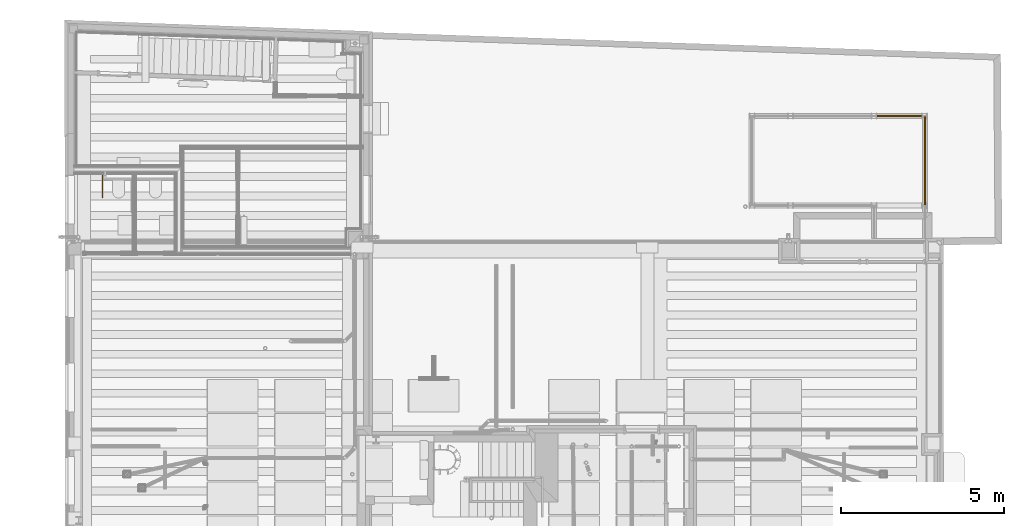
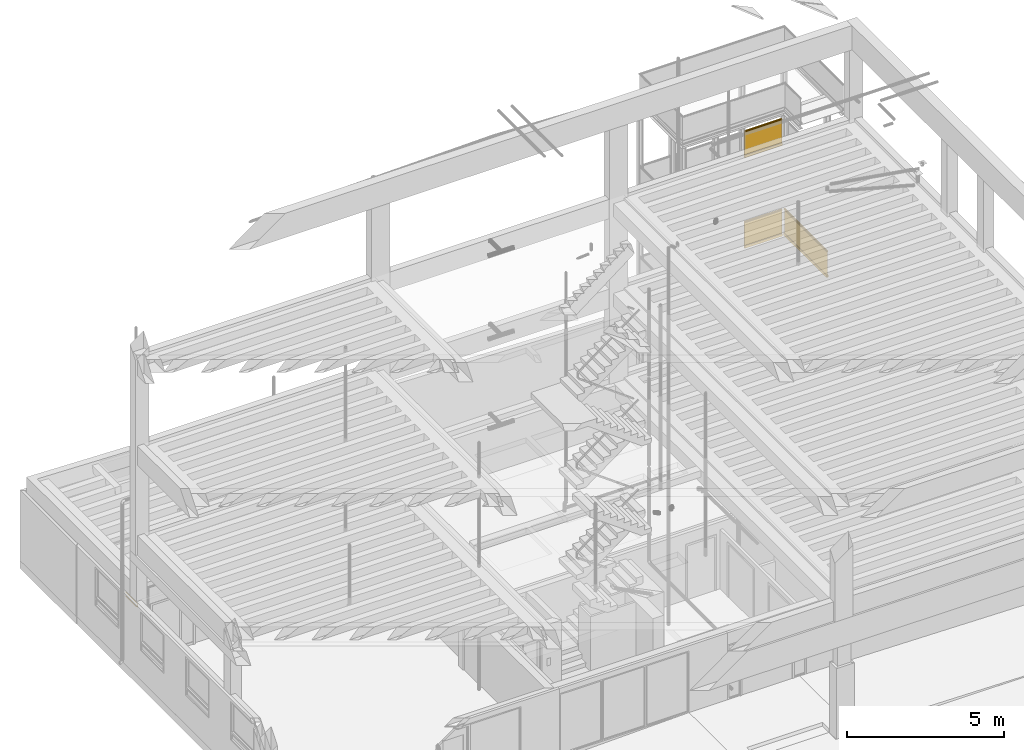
# One storey, part 35 of 108: 4 railings.
"""IFC2X3 building model written with IfcOpenShell, lengths in metres."""

from ifc_helpers import new_model, entity, si_unit, converted_unit, derived_unit, money_unit, direction, frame, origin_with_axes, place, context, subcontext, project, spatial, faceted_brep, material, type_object, element, save


model = new_model("IFC2X3")

# Units and contexts
model_context = context("Model", 3, precision=1e-05, world=origin_with_axes(), true_north=direction((0.0, 1.0)))
body_context = subcontext(model_context, "Body", "Model", "MODEL_VIEW", scale=1.0)
ifc_project = project(units=[si_unit("LENGTHUNIT", "METRE"), si_unit("AREAUNIT", "SQUARE_METRE"), si_unit("VOLUMEUNIT", "CUBIC_METRE"), si_unit("ABSORBEDDOSEUNIT", "GRAY"), si_unit("AMOUNTOFSUBSTANCEUNIT", "MOLE"), si_unit("DOSEEQUIVALENTUNIT", "SIEVERT"), si_unit("ELECTRICCAPACITANCEUNIT", "FARAD"), si_unit("ELECTRICCHARGEUNIT", "COULOMB"), si_unit("ELECTRICCONDUCTANCEUNIT", "SIEMENS"), si_unit("ELECTRICCURRENTUNIT", "AMPERE"), si_unit("ELECTRICRESISTANCEUNIT", "OHM"), si_unit("ELECTRICVOLTAGEUNIT", "VOLT"), si_unit("ENERGYUNIT", "JOULE"), si_unit("FORCEUNIT", "NEWTON"), si_unit("FREQUENCYUNIT", "HERTZ"), si_unit("ILLUMINANCEUNIT", "LUX"), si_unit("INDUCTANCEUNIT", "HENRY"), si_unit("LUMINOUSFLUXUNIT", "LUMEN"), si_unit("LUMINOUSINTENSITYUNIT", "CANDELA"), si_unit("MAGNETICFLUXDENSITYUNIT", "TESLA"), si_unit("MAGNETICFLUXUNIT", "WEBER"), si_unit("MASSUNIT", "GRAM"), converted_unit("PLANEANGLEUNIT", "degree", entity("IfcReal", 0.0174532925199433), si_unit("PLANEANGLEUNIT", "RADIAN"), dimensions=[0, 0, 0, 0, 0, 0, 0]), si_unit("POWERUNIT", "WATT"), si_unit("PRESSUREUNIT", "PASCAL"), si_unit("RADIOACTIVITYUNIT", "BECQUEREL"), si_unit("SOLIDANGLEUNIT", "STERADIAN"), si_unit("THERMODYNAMICTEMPERATUREUNIT", "KELVIN"), si_unit("TIMEUNIT", "SECOND"), derived_unit("ACCELERATIONUNIT", [(si_unit("LENGTHUNIT", "METRE"), 1), (si_unit("TIMEUNIT", "SECOND"), -2)]), derived_unit("ANGULARVELOCITYUNIT", [(converted_unit("PLANEANGLEUNIT", "degree", entity("IfcReal", 0.0174532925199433), si_unit("PLANEANGLEUNIT", "RADIAN"), dimensions=[0, 0, 0, 0, 0, 0, 0]), 1), (si_unit("TIMEUNIT", "SECOND"), -1)]), derived_unit("CURVATUREUNIT", [(converted_unit("PLANEANGLEUNIT", "degree", entity("IfcReal", 0.0174532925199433), si_unit("PLANEANGLEUNIT", "RADIAN"), dimensions=[0, 0, 0, 0, 0, 0, 0]), 1), (si_unit("LENGTHUNIT", "METRE"), -1)]), derived_unit("DYNAMICVISCOSITYUNIT", [(si_unit("PRESSUREUNIT", "PASCAL"), 1), (si_unit("TIMEUNIT", "SECOND"), 1)]), derived_unit("HEATFLUXDENSITYUNIT", [(si_unit("POWERUNIT", "WATT"), 1), (si_unit("LENGTHUNIT", "METRE"), -2)]), derived_unit("HEATINGVALUEUNIT", [(si_unit("ENERGYUNIT", "JOULE"), 1), (si_unit("MASSUNIT", "GRAM"), -1)]), derived_unit("INTEGERCOUNTRATEUNIT", [(si_unit("TIMEUNIT", "SECOND"), -1)]), derived_unit("IONCONCENTRATIONUNIT", [(si_unit("MASSUNIT", "GRAM"), 1), (si_unit("VOLUMEUNIT", "CUBIC_METRE"), -1)]), derived_unit("ISOTHERMALMOISTURECAPACITYUNIT", [(si_unit("VOLUMEUNIT", "CUBIC_METRE"), 1), (si_unit("MASSUNIT", "GRAM"), -1)]), derived_unit("KINEMATICVISCOSITYUNIT", [(si_unit("AREAUNIT", "SQUARE_METRE"), 1), (si_unit("TIMEUNIT", "SECOND"), -1)]), derived_unit("LINEARFORCEUNIT", [(si_unit("FORCEUNIT", "NEWTON"), 1), (si_unit("LENGTHUNIT", "METRE"), -1)]), derived_unit("LINEARMOMENTUNIT", [(si_unit("FORCEUNIT", "NEWTON"), 1), (si_unit("LENGTHUNIT", "METRE"), -1)]), derived_unit("LINEARSTIFFNESSUNIT", [(si_unit("FORCEUNIT", "NEWTON"), 1), (si_unit("LENGTHUNIT", "METRE"), -1)]), derived_unit("LINEARVELOCITYUNIT", [(si_unit("LENGTHUNIT", "METRE"), 1), (si_unit("TIMEUNIT", "SECOND"), -1)]), derived_unit("LUMINOUSINTENSITYDISTRIBUTIONUNIT", [(si_unit("LUMINOUSINTENSITYUNIT", "CANDELA"), 1), (si_unit("LUMINOUSFLUXUNIT", "LUMEN"), -1)]), derived_unit("MASSDENSITYUNIT", [(si_unit("MASSUNIT", "GRAM"), 1), (si_unit("VOLUMEUNIT", "CUBIC_METRE"), -1)]), derived_unit("MASSFLOWRATEUNIT", [(si_unit("MASSUNIT", "GRAM"), 1), (si_unit("TIMEUNIT", "SECOND"), -1)]), derived_unit("MASSPERLENGTHUNIT", [(si_unit("MASSUNIT", "GRAM"), 1), (si_unit("LENGTHUNIT", "METRE"), -1)]), derived_unit("MODULUSOFELASTICITYUNIT", [(si_unit("FORCEUNIT", "NEWTON"), 1), (si_unit("AREAUNIT", "SQUARE_METRE"), -1)]), derived_unit("MODULUSOFLINEARSUBGRADEREACTIONUNIT", [(si_unit("FORCEUNIT", "NEWTON"), 1), (si_unit("LENGTHUNIT", "METRE"), -2)]), derived_unit("MODULUSOFROTATIONALSUBGRADEREACTIONUNIT", [(si_unit("FORCEUNIT", "NEWTON"), 1), (si_unit("LENGTHUNIT", "METRE"), 1)]), derived_unit("MODULUSOFSUBGRADEREACTIONUNIT", [(si_unit("FORCEUNIT", "NEWTON"), 1), (si_unit("VOLUMEUNIT", "CUBIC_METRE"), -1)]), derived_unit("MOISTUREDIFFUSIVITYUNIT", [(si_unit("VOLUMEUNIT", "CUBIC_METRE"), 1), (si_unit("TIMEUNIT", "SECOND"), -1)]), derived_unit("MOLECULARWEIGHTUNIT", [(si_unit("MASSUNIT", "GRAM"), 1), (si_unit("AMOUNTOFSUBSTANCEUNIT", "MOLE"), -1)]), derived_unit("PLANARFORCEUNIT", [(si_unit("FORCEUNIT", "NEWTON"), 1), (si_unit("LENGTHUNIT", "METRE"), -2)]), derived_unit("ROTATIONALFREQUENCYUNIT", [(si_unit("TIMEUNIT", "SECOND"), -1)]), derived_unit("ROTATIONALMASSUNIT", [(si_unit("MASSUNIT", "GRAM"), 1), (si_unit("LENGTHUNIT", "METRE"), 2)]), derived_unit("ROTATIONALSTIFFNESSUNIT", [(si_unit("FORCEUNIT", "NEWTON"), 1), (si_unit("LENGTHUNIT", "METRE"), 1), (converted_unit("PLANEANGLEUNIT", "degree", entity("IfcReal", 0.0174532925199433), si_unit("PLANEANGLEUNIT", "RADIAN"), dimensions=[0, 0, 0, 0, 0, 0, 0]), -1)]), derived_unit("SECTIONAREAINTEGRALUNIT", [(si_unit("LENGTHUNIT", "METRE"), 5)]), derived_unit("SECTIONMODULUSUNIT", [(si_unit("LENGTHUNIT", "METRE"), 3)]), derived_unit("SHEARMODULUSUNIT", [(si_unit("FORCEUNIT", "NEWTON"), 1), (si_unit("AREAUNIT", "SQUARE_METRE"), -1)]), derived_unit("SOUNDPOWERUNIT", [(si_unit("ENERGYUNIT", "JOULE"), 1), (si_unit("TIMEUNIT", "SECOND"), -1)]), derived_unit("SPECIFICHEATCAPACITYUNIT", [(si_unit("FORCEUNIT", "NEWTON"), 1), (si_unit("MASSUNIT", "GRAM"), -1), (si_unit("THERMODYNAMICTEMPERATUREUNIT", "KELVIN"), -1)]), derived_unit("TEMPERATUREGRADIENTUNIT", [(si_unit("THERMODYNAMICTEMPERATUREUNIT", "KELVIN"), 1), (si_unit("LENGTHUNIT", "METRE"), -1)]), derived_unit("THERMALADMITTANCEUNIT", [(si_unit("POWERUNIT", "WATT"), 1), (si_unit("AREAUNIT", "SQUARE_METRE"), -1), (si_unit("THERMODYNAMICTEMPERATUREUNIT", "KELVIN"), -1)]), derived_unit("THERMALCONDUCTANCEUNIT", [(si_unit("POWERUNIT", "WATT"), 1), (si_unit("LENGTHUNIT", "METRE"), -1), (si_unit("THERMODYNAMICTEMPERATUREUNIT", "KELVIN"), -1)]), derived_unit("THERMALEXPANSIONCOEFFICIENTUNIT", [(si_unit("THERMODYNAMICTEMPERATUREUNIT", "KELVIN"), -1)]), derived_unit("THERMALRESISTANCEUNIT", [(si_unit("AREAUNIT", "SQUARE_METRE"), 1), (si_unit("POWERUNIT", "WATT"), -1)]), derived_unit("THERMALTRANSMITTANCEUNIT", [(si_unit("POWERUNIT", "WATT"), 1), (si_unit("AREAUNIT", "SQUARE_METRE"), -1), (si_unit("THERMODYNAMICTEMPERATUREUNIT", "KELVIN"), -1)]), derived_unit("TORQUEUNIT", [(si_unit("FORCEUNIT", "NEWTON"), 1), (si_unit("LENGTHUNIT", "METRE"), 1)]), derived_unit("VAPORPERMEABILITYUNIT", [(si_unit("MASSUNIT", "GRAM"), 1), (si_unit("TIMEUNIT", "SECOND"), -1)]), derived_unit("VOLUMETRICFLOWRATEUNIT", [(si_unit("VOLUMEUNIT", "CUBIC_METRE"), 1), (si_unit("TIMEUNIT", "SECOND"), -1)]), derived_unit("WARPINGCONSTANTUNIT", [(si_unit("LENGTHUNIT", "METRE"), 6)]), derived_unit("WARPINGMOMENTUNIT", [(si_unit("FORCEUNIT", "NEWTON"), 1), (si_unit("LENGTHUNIT", "METRE"), 2)]), money_unit("GBP")], contexts=[model_context])

# Site, building, storey
site_placement = place(None, origin_with_axes())
site = spatial("IfcSite", under=ifc_project, at=site_placement, Name="Site", CompositionType="ELEMENT")
building_placement = place(site_placement, origin_with_axes())
building = spatial("IfcBuilding", under=site, at=building_placement, Name="Building01", CompositionType="ELEMENT")
storey_placement = place(building_placement, origin_with_axes())
storey = spatial("IfcBuildingStorey", under=building, at=storey_placement, Name="GF", CompositionType="ELEMENT", Elevation=0.0)

# Railings
ifc_material = material(Name="A_BSUK_Steel_Miscellaneous")
railing_type_1 = type_object("IfcRailingType", Name="A-Handrail-900mm", PredefinedType="NOTDEFINED")
railing_1_placement = place(storey_placement, frame((1.150525, 16.893493, 0.198), z_axis=(0.0, 0.0, 1.0), x_axis=(1.0, 0.0, 0.0)))
element("IfcRailing", 1, at=railing_1_placement, inside=storey, type_object=railing_type_1, material=ifc_material, Name="A-Handrail-900mm", ObjectType="A-Handrail-900mm", PredefinedType="HANDRAIL", context=body_context, shape_type="Brep", body=[
    faceted_brep([(0.0, -0.732331, 0.88243), (0.002447, -0.733344, 0.883443), (0.002648, 0.0, 0.882957), (0.004893, -0.734357, 0.884457), (0.004893, 0.0, 0.884457), (0.005907, -0.736804, 0.886903), (0.006393, 0.0, 0.886702), (0.00692, -0.739251, 0.88935), (0.00692, 0.0, 0.88935), (0.005907, -0.741697, 0.891797), (0.006393, 0.0, 0.891998), (0.004893, -0.744144, 0.894243), (0.004893, 0.0, 0.894243), (0.002447, -0.745157, 0.895257), (0.002648, 0.0, 0.895743), (0.0, -0.746171, 0.89627), (0.0, 0.0, 0.89627), (-0.002447, -0.745157, 0.895257), (-0.002648, 0.0, 0.895743), (-0.004893, -0.744144, 0.894243), (-0.004893, 0.0, 0.894243), (-0.005907, -0.741697, 0.891797), (-0.006393, 0.0, 0.891998), (-0.00692, -0.739251, 0.88935), (-0.00692, 0.0, 0.88935), (-0.005907, -0.736804, 0.886903), (-0.006393, 0.0, 0.886702), (-0.004893, -0.734357, 0.884457), (-0.004893, 0.0, 0.884457), (-0.002447, -0.733344, 0.883443), (-0.002648, 0.0, 0.882957), (0.0, 0.0, 0.88243), (0.009839, 0.0, 0.885274), (0.007531, 0.0, 0.881819), (0.004076, 0.0, 0.879511), (0.0, 0.0, 0.8787), (-0.004076, 0.0, 0.879511), (-0.007531, 0.0, 0.881819), (-0.009839, 0.0, 0.885274), (-0.01065, 0.0, 0.88935), (-0.009839, 0.0, 0.893426), (-0.007531, 0.0, 0.896881), (-0.004076, 0.0, 0.899189), (0.0, 0.0, 0.9), (0.004076, 0.0, 0.899189), (0.007531, 0.0, 0.896881), (0.009839, 0.0, 0.893426), (0.01065, 0.0, 0.88935), (-0.007531, -0.746781, 0.896881), (-0.009839, -0.743326, 0.893426), (-0.01065, -0.739251, 0.88935), (-0.009839, -0.735175, 0.885274), (-0.007531, -0.73172, 0.881819), (-0.004076, -0.729411, 0.879511), (0.0, -0.728601, 0.8787), (0.004076, -0.729411, 0.879511), (0.007531, -0.73172, 0.881819), (0.009839, -0.735175, 0.885274), (0.01065, -0.739251, 0.88935), (0.009839, -0.743326, 0.893426), (0.007531, -0.746781, 0.896881), (0.003818, -0.748544, 0.898644), (0.001077, -0.749846, 0.899945), (-0.001077, -0.749846, 0.899945), (-0.003818, -0.748544, 0.898644), (0.0, -0.749846, 0.9)], [[[0, 1, 2]], [[1, 3, 4]], [[3, 5, 6]], [[5, 7, 8]], [[7, 9, 10]], [[9, 11, 12]], [[11, 13, 14]], [[13, 15, 16]], [[17, 18, 16]], [[19, 20, 18]], [[21, 22, 20]], [[23, 24, 22]], [[25, 26, 24]], [[27, 28, 26]], [[29, 30, 28]], [[0, 31, 30]], [[30, 29, 0]], [[28, 27, 29]], [[26, 25, 27]], [[24, 23, 25]], [[22, 21, 23]], [[20, 19, 21]], [[18, 17, 19]], [[16, 15, 17]], [[16, 14, 13]], [[14, 12, 11]], [[12, 10, 9]], [[10, 8, 7]], [[8, 6, 5]], [[6, 4, 3]], [[4, 2, 1]], [[2, 31, 0]], [[32, 33, 34, 35, 36, 37, 38, 39, 40, 41, 42, 43, 44, 45, 46, 47], [10, 12, 14, 16, 18, 20, 22, 24, 26, 28, 30, 31, 2, 4, 6, 8]], [[48, 49, 50, 51, 52, 53, 54, 55, 56, 57, 58, 59, 60, 61, 62, 63, 64], [27, 25, 23, 21, 19, 17, 15, 13, 11, 9, 7, 5, 3, 1, 0, 29]], [[61, 44, 43]], [[60, 45, 44]], [[59, 46, 45, 60]], [[58, 47, 46, 59]], [[57, 32, 47, 58]], [[56, 33, 32, 57]], [[55, 34, 33, 56]], [[54, 35, 34, 55]], [[53, 36, 35, 54]], [[52, 37, 36, 53]], [[51, 38, 37, 52]], [[50, 39, 38, 51]], [[49, 40, 39, 50]], [[48, 41, 40, 49]], [[48, 64, 42]], [[63, 65, 43]], [[64, 63, 43]], [[43, 42, 64]], [[42, 41, 48]], [[44, 61, 60]], [[43, 65, 62]], [[43, 62, 61]], [[62, 65, 63]]]),
    faceted_brep([(0.004076, -0.74909, 0.899189), (0.007531, -0.746781, 0.896881), (0.009839, -0.743326, 0.893426), (0.01065, -0.739251, 0.88935), (0.009839, -0.735175, 0.885274), (0.007531, -0.73172, 0.881819), (0.004076, -0.729411, 0.879511), (0.0, -0.728601, 0.8787), (-0.004076, -0.729411, 0.879511), (-0.007531, -0.73172, 0.881819), (-0.009839, -0.735175, 0.885274), (-0.01065, -0.739251, 0.88935), (-0.009839, -0.743326, 0.893426), (-0.007531, -0.746781, 0.896881), (-0.004076, -0.74909, 0.899189), (0.0, -0.749901, 0.9), (-0.004893, -0.744144, 0.894243), (-0.005907, -0.741697, 0.891797), (-0.00692, -0.739251, 0.88935), (-0.005907, -0.736804, 0.886903), (-0.004893, -0.734357, 0.884457), (-0.002447, -0.733344, 0.883443), (0.0, -0.732331, 0.88243), (0.002447, -0.733344, 0.883443), (0.004893, -0.734357, 0.884457), (0.005907, -0.736804, 0.886903), (0.00692, -0.739251, 0.88935), (0.005907, -0.741697, 0.891797), (0.004893, -0.744144, 0.894243), (0.002447, -0.745157, 0.895257), (0.0, -0.746171, 0.89627), (-0.002447, -0.745157, 0.895257), (0.002447, -0.745157, 0.733443), (0.0, -0.746171, 0.73243), (0.004893, -0.744144, 0.734457), (0.005907, -0.741697, 0.736903), (0.00692, -0.739251, 0.73935), (0.005907, -0.736804, 0.741797), (0.004893, -0.734357, 0.744243), (0.002447, -0.733344, 0.745257), (0.0, -0.732331, 0.74627), (-0.002447, -0.733344, 0.745257), (-0.004893, -0.734357, 0.744243), (-0.005907, -0.736804, 0.741797), (-0.00692, -0.739251, 0.73935), (-0.005907, -0.741697, 0.736903), (-0.004893, -0.744144, 0.734457), (-0.002447, -0.745157, 0.733443), (-0.007531, -0.746781, 0.731819), (-0.009839, -0.743326, 0.735274), (-0.01065, -0.739251, 0.73935), (-0.009839, -0.735175, 0.743426), (-0.007531, -0.73172, 0.746881), (-0.004076, -0.729411, 0.749189), (0.0, -0.728601, 0.75), (0.004076, -0.729411, 0.749189), (0.007531, -0.73172, 0.746881), (0.009839, -0.735175, 0.743426), (0.01065, -0.739251, 0.73935), (0.009839, -0.743326, 0.735274), (0.007531, -0.746781, 0.731819), (0.003818, -0.748544, 0.730056), (0.001077, -0.749846, 0.728755), (-0.001077, -0.749846, 0.728755), (-0.003818, -0.748544, 0.730056), (0.0, -0.749901, 0.728755)], [[[0, 1, 2, 3, 4, 5, 6, 7, 8, 9, 10, 11, 12, 13, 14, 15], [16, 17, 18, 19, 20, 21, 22, 23, 24, 25, 26, 27, 28, 29, 30, 31]], [[29, 32, 33, 30]], [[28, 34, 32, 29]], [[27, 35, 34, 28]], [[26, 36, 35, 27]], [[25, 37, 36, 26]], [[24, 38, 37, 25]], [[23, 39, 38, 24]], [[22, 40, 39, 23]], [[21, 41, 40, 22]], [[20, 42, 41, 21]], [[19, 43, 42, 20]], [[18, 44, 43, 19]], [[17, 45, 44, 18]], [[16, 46, 45, 17]], [[31, 47, 46, 16]], [[30, 33, 47, 31]], [[48, 49, 50, 51, 52, 53, 54, 55, 56, 57, 58, 59, 60, 61, 62, 63, 64], [42, 43, 44, 45, 46, 47, 33, 32, 34, 35, 36, 37, 38, 39, 40, 41]], [[61, 0, 15]], [[1, 0, 61]], [[59, 2, 1, 60]], [[58, 3, 2, 59]], [[57, 4, 3, 58]], [[56, 5, 4, 57]], [[55, 6, 5, 56]], [[54, 7, 6, 55]], [[53, 8, 7, 54]], [[52, 9, 8, 53]], [[51, 10, 9, 52]], [[50, 11, 10, 51]], [[49, 12, 11, 50]], [[48, 13, 12, 49]], [[13, 48, 64]], [[63, 65, 15]], [[64, 63, 15]], [[15, 14, 64]], [[64, 14, 13]], [[61, 60, 1]], [[15, 65, 62]], [[15, 62, 61]], [[62, 65, 63]]]),
    faceted_brep([(0.004076, -0.74909, 0.729511), (0.007531, -0.746781, 0.731819), (0.009839, -0.743326, 0.735274), (0.01065, -0.739251, 0.73935), (0.009839, -0.735175, 0.743426), (0.007531, -0.73172, 0.746881), (0.004076, -0.729411, 0.749189), (0.0, -0.728601, 0.75), (-0.004076, -0.729411, 0.749189), (-0.007531, -0.73172, 0.746881), (-0.009839, -0.735175, 0.743426), (-0.01065, -0.739251, 0.73935), (-0.009839, -0.743326, 0.735274), (-0.007531, -0.746781, 0.731819), (-0.004076, -0.74909, 0.729511), (0.0, -0.749901, 0.7287), (-0.004893, -0.744144, 0.734457), (-0.005907, -0.741697, 0.736903), (-0.00692, -0.739251, 0.73935), (-0.005907, -0.736804, 0.741797), (-0.004893, -0.734357, 0.744243), (-0.002447, -0.733344, 0.745257), (0.0, -0.732331, 0.74627), (0.002447, -0.733344, 0.745257), (0.004893, -0.734357, 0.744243), (0.005907, -0.736804, 0.741797), (0.00692, -0.739251, 0.73935), (0.005907, -0.741697, 0.736903), (0.004893, -0.744144, 0.734457), (0.002447, -0.745157, 0.733443), (0.0, -0.746171, 0.73243), (-0.002447, -0.745157, 0.733443), (0.002648, 0.0, 0.732957), (0.0, 0.0, 0.73243), (0.004893, 0.0, 0.734457), (0.006393, 0.0, 0.736702), (0.00692, 0.0, 0.73935), (0.006393, 0.0, 0.741998), (0.004893, 0.0, 0.744243), (0.002648, 0.0, 0.745743), (0.0, 0.0, 0.74627), (-0.002648, 0.0, 0.745743), (-0.004893, 0.0, 0.744243), (-0.006393, 0.0, 0.741998), (-0.00692, 0.0, 0.73935), (-0.006393, 0.0, 0.736702), (-0.004893, 0.0, 0.734457), (-0.002648, 0.0, 0.732957), (-0.009839, 0.0, 0.743426), (-0.007531, 0.0, 0.746881), (-0.004076, 0.0, 0.749189), (0.0, 0.0, 0.75), (0.004076, 0.0, 0.749189), (0.007531, 0.0, 0.746881), (0.009839, 0.0, 0.743426), (0.01065, 0.0, 0.73935), (0.009839, 0.0, 0.735274), (0.007531, 0.0, 0.731819), (0.004076, 0.0, 0.729511), (0.0, 0.0, 0.7287), (-0.004076, 0.0, 0.729511), (-0.007531, 0.0, 0.731819), (-0.009839, 0.0, 0.735274), (-0.01065, 0.0, 0.73935)], [[[0, 1, 2, 3, 4, 5, 6, 7, 8, 9, 10, 11, 12, 13, 14, 15], [16, 17, 18, 19, 20, 21, 22, 23, 24, 25, 26, 27, 28, 29, 30, 31]], [[29, 32, 33]], [[28, 34, 32]], [[27, 35, 34]], [[26, 36, 35]], [[25, 37, 36]], [[24, 38, 37]], [[23, 39, 38]], [[22, 40, 39]], [[22, 21, 41]], [[21, 20, 42]], [[20, 19, 43]], [[19, 18, 44]], [[18, 17, 45]], [[17, 16, 46]], [[16, 31, 47]], [[31, 30, 33]], [[33, 47, 31]], [[47, 46, 16]], [[46, 45, 17]], [[45, 44, 18]], [[44, 43, 19]], [[43, 42, 20]], [[42, 41, 21]], [[41, 40, 22]], [[39, 23, 22]], [[38, 24, 23]], [[37, 25, 24]], [[36, 26, 25]], [[35, 27, 26]], [[34, 28, 27]], [[32, 29, 28]], [[33, 30, 29]], [[48, 49, 50, 51, 52, 53, 54, 55, 56, 57, 58, 59, 60, 61, 62, 63], [45, 46, 47, 33, 32, 34, 35, 36, 37, 38, 39, 40, 41, 42, 43, 44]], [[14, 60, 59, 15]], [[13, 61, 60, 14]], [[12, 62, 61, 13]], [[11, 63, 62, 12]], [[10, 48, 63, 11]], [[9, 49, 48, 10]], [[8, 50, 49, 9]], [[7, 51, 50, 8]], [[6, 52, 51, 7]], [[5, 53, 52, 6]], [[4, 54, 53, 5]], [[3, 55, 54, 4]], [[2, 56, 55, 3]], [[1, 57, 56, 2]], [[0, 58, 57, 1]], [[15, 59, 58, 0]]]),
])
railing_type_2 = type_object("IfcRailingType", Name="A-RailingGlassPanel-1050mm", PredefinedType="NOTDEFINED")
railing_2_placement = place(storey_placement, frame((26.319835, 18.663481, 8.587442), z_axis=(0.0, 0.0, 1.0), x_axis=(1.0, 0.0, 0.0)))
element("IfcRailing", 2, at=railing_2_placement, inside=storey, type_object=railing_type_2, material=ifc_material, Name="A-RailingGlassPanel-1050mm", ObjectType="A-RailingGlassPanel-1050mm", PredefinedType="HANDRAIL", context=body_context, shape_type="Brep", body=[
    faceted_brep([(-1.3798, -0.0125, 0.9875), (0.0, -0.0125, 0.9875), (0.0, -0.023022, 0.99456), (-1.3798, -0.023022, 0.99456), (0.0, -0.030045, 1.005108), (-1.3798, -0.030045, 1.005108), (0.0, -0.0325, 1.017539), (-1.3798, -0.0325, 1.017539), (0.0, -0.030015, 1.029964), (-1.3798, -0.030015, 1.029964), (0.0, -0.022967, 1.040495), (-1.3798, -0.022967, 1.040495), (0.0, -0.012428, 1.04753), (-1.3798, -0.012428, 1.04753), (0.0, 0.0, 1.05), (-1.3798, 0.0, 1.05), (0.0, 0.012428, 1.04753), (-1.3798, 0.012428, 1.04753), (0.0, 0.022967, 1.040495), (-1.3798, 0.022967, 1.040495), (0.0, 0.030015, 1.029964), (-1.3798, 0.030015, 1.029964), (0.0, 0.0325, 1.017539), (-1.3798, 0.0325, 1.017539), (0.0, 0.030045, 1.005108), (-1.3798, 0.030045, 1.005108), (0.0, 0.023022, 0.99456), (-1.3798, 0.023022, 0.99456), (0.0, 0.0125, 0.9875), (-1.3798, 0.0125, 0.9875), (-1.3798, -0.0125, 1.0125), (0.0, -0.0125, 1.0125), (-1.3798, 0.0125, 1.0125), (0.0, 0.0125, 1.0125)], [[[0, 1, 2, 3]], [[3, 2, 4, 5]], [[5, 4, 6, 7]], [[7, 6, 8, 9]], [[9, 8, 10, 11]], [[11, 10, 12, 13]], [[13, 12, 14, 15]], [[15, 14, 16, 17]], [[17, 16, 18, 19]], [[19, 18, 20, 21]], [[21, 20, 22, 23]], [[23, 22, 24, 25]], [[25, 24, 26, 27]], [[27, 26, 28, 29]], [[0, 30, 31, 1]], [[30, 32, 33, 31]], [[32, 30, 0, 3, 5, 7, 9, 11, 13, 15, 17, 19, 21, 23, 25, 27, 29]], [[32, 29, 28, 33]], [[28, 26, 24, 22, 20, 18, 16, 14, 12, 10, 8, 6, 4, 2, 1, 31, 33]]]),
    faceted_brep([(-1.3798, -0.0295, 0.099925), (0.0, -0.0295, 0.099925), (0.0, -0.0125, 0.099925), (-1.3798, -0.0125, 0.099925), (-1.3798, -0.0325, 0.096925), (0.0, -0.0325, 0.096925), (0.0, -0.032272, 0.098073), (-1.3798, -0.032272, 0.098073), (0.0, -0.031621, 0.099046), (-1.3798, -0.031621, 0.099046), (0.0, -0.030648, 0.099697), (-1.3798, -0.030648, 0.099697), (-1.3798, -0.0325, 0.003), (0.0, -0.0325, 0.003), (-1.3798, -0.0295, 0.0), (-1.3798, -0.030648, 0.000228), (-1.3798, -0.031621, 0.000879), (-1.3798, -0.032272, 0.001852), (-1.3798, -0.0125, 0.01), (-1.3798, 0.0125, 0.01), (-1.3798, 0.0125, 0.099925), (-1.3798, 0.0295, 0.099925), (-1.3798, 0.030648, 0.099697), (-1.3798, 0.031621, 0.099046), (-1.3798, 0.032272, 0.098073), (-1.3798, 0.0325, 0.096925), (-1.3798, 0.0325, 0.003), (-1.3798, 0.032272, 0.001852), (-1.3798, 0.031621, 0.000879), (-1.3798, 0.030648, 0.000228), (-1.3798, 0.0295, 0.0), (0.0, 0.0295, 0.0), (0.0, 0.030648, 0.000228), (0.0, 0.031621, 0.000879), (0.0, 0.032272, 0.001852), (0.0, 0.0325, 0.003), (0.0, 0.0325, 0.096925), (0.0, 0.032272, 0.098073), (0.0, 0.031621, 0.099046), (0.0, 0.030648, 0.099697), (0.0, 0.0295, 0.099925), (0.0, 0.0125, 0.099925), (0.0, 0.0125, 0.01), (0.0, -0.0125, 0.01), (0.0, -0.032272, 0.001852), (0.0, -0.031621, 0.000879), (0.0, -0.030648, 0.000228), (0.0, -0.0295, 0.0)], [[[0, 1, 2, 3]], [[4, 5, 6, 7]], [[7, 6, 8, 9]], [[9, 8, 10, 11]], [[11, 10, 1, 0]], [[4, 12, 13, 5]], [[14, 15, 16, 17, 12, 4, 7, 9, 11, 0, 3, 18, 19, 20, 21, 22, 23, 24, 25, 26, 27, 28, 29, 30]], [[31, 32, 33, 34, 35, 36, 37, 38, 39, 40, 41, 42, 43, 2, 1, 10, 8, 6, 5, 13, 44, 45, 46, 47]], [[14, 47, 46, 15]], [[15, 46, 45, 16]], [[16, 45, 44, 17]], [[17, 44, 13, 12]], [[14, 30, 31, 47]], [[26, 35, 34, 27]], [[27, 34, 33, 28]], [[28, 33, 32, 29]], [[29, 32, 31, 30]], [[26, 25, 36, 35]], [[21, 40, 39, 22]], [[22, 39, 38, 23]], [[23, 38, 37, 24]], [[24, 37, 36, 25]], [[21, 20, 41, 40]], [[20, 19, 42, 41]], [[19, 18, 43, 42]], [[18, 3, 2, 43]]]),
    faceted_brep([(0.0, 0.0, 0.05), (0.0, 0.0, 1.025), (-1.3798, 0.0, 1.025), (-1.3798, 0.0, 0.05), (-1.3798, 0.01, 0.05), (-1.3798, 0.01, 1.025), (0.0, 0.01, 1.025), (0.0, 0.01, 0.05)], [[[0, 1, 2, 3]], [[4, 5, 6, 7]], [[0, 7, 6, 1]], [[1, 6, 5, 2]], [[2, 5, 4, 3]], [[3, 4, 7, 0]]]),
])
railing_3_placement = place(storey_placement, frame((26.319835, 18.663481, 5.064467), z_axis=(0.0, 0.0, 1.0), x_axis=(1.0, 0.0, 0.0)))
element("IfcRailing", 3, at=railing_3_placement, inside=storey, type_object=railing_type_2, material=ifc_material, Name="A-RailingGlassPanel-1050mm", ObjectType="A-RailingGlassPanel-1050mm", PredefinedType="HANDRAIL", context=body_context, shape_type="Brep", body=[
    faceted_brep([(-1.3798, -0.0125, 0.9875), (0.0, -0.0125, 0.9875), (0.0, -0.023022, 0.99456), (-1.3798, -0.023022, 0.99456), (0.0, -0.030045, 1.005108), (-1.3798, -0.030045, 1.005108), (0.0, -0.0325, 1.017539), (-1.3798, -0.0325, 1.017539), (0.0, -0.030015, 1.029964), (-1.3798, -0.030015, 1.029964), (0.0, -0.022967, 1.040495), (-1.3798, -0.022967, 1.040495), (0.0, -0.012428, 1.04753), (-1.3798, -0.012428, 1.04753), (0.0, 0.0, 1.05), (-1.3798, 0.0, 1.05), (0.0, 0.012428, 1.04753), (-1.3798, 0.012428, 1.04753), (0.0, 0.022967, 1.040495), (-1.3798, 0.022967, 1.040495), (0.0, 0.030015, 1.029964), (-1.3798, 0.030015, 1.029964), (0.0, 0.0325, 1.017539), (-1.3798, 0.0325, 1.017539), (0.0, 0.030045, 1.005108), (-1.3798, 0.030045, 1.005108), (0.0, 0.023022, 0.99456), (-1.3798, 0.023022, 0.99456), (0.0, 0.0125, 0.9875), (-1.3798, 0.0125, 0.9875), (-1.3798, -0.0125, 1.0125), (0.0, -0.0125, 1.0125), (-1.3798, 0.0125, 1.0125), (0.0, 0.0125, 1.0125)], [[[0, 1, 2, 3]], [[3, 2, 4, 5]], [[5, 4, 6, 7]], [[7, 6, 8, 9]], [[9, 8, 10, 11]], [[11, 10, 12, 13]], [[13, 12, 14, 15]], [[15, 14, 16, 17]], [[17, 16, 18, 19]], [[19, 18, 20, 21]], [[21, 20, 22, 23]], [[23, 22, 24, 25]], [[25, 24, 26, 27]], [[27, 26, 28, 29]], [[0, 30, 31, 1]], [[30, 32, 33, 31]], [[32, 30, 0, 3, 5, 7, 9, 11, 13, 15, 17, 19, 21, 23, 25, 27, 29]], [[32, 29, 28, 33]], [[28, 26, 24, 22, 20, 18, 16, 14, 12, 10, 8, 6, 4, 2, 1, 31, 33]]]),
    faceted_brep([(-1.3798, -0.0295, 0.099925), (0.0, -0.0295, 0.099925), (0.0, -0.0125, 0.099925), (-1.3798, -0.0125, 0.099925), (-1.3798, -0.0325, 0.096925), (0.0, -0.0325, 0.096925), (0.0, -0.032272, 0.098073), (-1.3798, -0.032272, 0.098073), (0.0, -0.031621, 0.099046), (-1.3798, -0.031621, 0.099046), (0.0, -0.030648, 0.099697), (-1.3798, -0.030648, 0.099697), (-1.3798, -0.0325, 0.003), (0.0, -0.0325, 0.003), (-1.3798, -0.0295, 0.0), (-1.3798, -0.030648, 0.000228), (-1.3798, -0.031621, 0.000879), (-1.3798, -0.032272, 0.001852), (-1.3798, -0.0125, 0.01), (-1.3798, 0.0125, 0.01), (-1.3798, 0.0125, 0.099925), (-1.3798, 0.0295, 0.099925), (-1.3798, 0.030648, 0.099697), (-1.3798, 0.031621, 0.099046), (-1.3798, 0.032272, 0.098073), (-1.3798, 0.0325, 0.096925), (-1.3798, 0.0325, 0.003), (-1.3798, 0.032272, 0.001852), (-1.3798, 0.031621, 0.000879), (-1.3798, 0.030648, 0.000228), (-1.3798, 0.0295, 0.0), (0.0, 0.0295, 0.0), (0.0, 0.030648, 0.000228), (0.0, 0.031621, 0.000879), (0.0, 0.032272, 0.001852), (0.0, 0.0325, 0.003), (0.0, 0.0325, 0.096925), (0.0, 0.032272, 0.098073), (0.0, 0.031621, 0.099046), (0.0, 0.030648, 0.099697), (0.0, 0.0295, 0.099925), (0.0, 0.0125, 0.099925), (0.0, 0.0125, 0.01), (0.0, -0.0125, 0.01), (0.0, -0.032272, 0.001852), (0.0, -0.031621, 0.000879), (0.0, -0.030648, 0.000228), (0.0, -0.0295, 0.0)], [[[0, 1, 2, 3]], [[4, 5, 6, 7]], [[7, 6, 8, 9]], [[9, 8, 10, 11]], [[11, 10, 1, 0]], [[4, 12, 13, 5]], [[14, 15, 16, 17, 12, 4, 7, 9, 11, 0, 3, 18, 19, 20, 21, 22, 23, 24, 25, 26, 27, 28, 29, 30]], [[31, 32, 33, 34, 35, 36, 37, 38, 39, 40, 41, 42, 43, 2, 1, 10, 8, 6, 5, 13, 44, 45, 46, 47]], [[14, 47, 46, 15]], [[15, 46, 45, 16]], [[16, 45, 44, 17]], [[17, 44, 13, 12]], [[14, 30, 31, 47]], [[26, 35, 34, 27]], [[27, 34, 33, 28]], [[28, 33, 32, 29]], [[29, 32, 31, 30]], [[26, 25, 36, 35]], [[21, 40, 39, 22]], [[22, 39, 38, 23]], [[23, 38, 37, 24]], [[24, 37, 36, 25]], [[21, 20, 41, 40]], [[20, 19, 42, 41]], [[19, 18, 43, 42]], [[18, 3, 2, 43]]]),
    faceted_brep([(0.0, 0.0, 0.05), (0.0, 0.0, 1.025), (-1.3798, 0.0, 1.025), (-1.3798, 0.0, 0.05), (-1.3798, 0.01, 0.05), (-1.3798, 0.01, 1.025), (0.0, 0.01, 1.025), (0.0, 0.01, 0.05)], [[[0, 1, 2, 3]], [[4, 5, 6, 7]], [[0, 7, 6, 1]], [[1, 6, 5, 2]], [[2, 5, 4, 3]], [[3, 4, 7, 0]]]),
])
railing_4_placement = place(storey_placement, frame((26.411335, 15.921381, 5.064467), z_axis=(0.0, 0.0, 1.0), x_axis=(1.0, 0.0, 0.0)))
element("IfcRailing", 4, at=railing_4_placement, inside=storey, type_object=railing_type_2, material=ifc_material, Name="A-RailingGlassPanel-1050mm", ObjectType="A-RailingGlassPanel-1050mm", PredefinedType="HANDRAIL", context=body_context, shape_type="Brep", body=[
    faceted_brep([(-0.0125, 2.7366, 0.9875), (-0.0125, 0.0, 0.9875), (-0.023022, 0.0, 0.99456), (-0.023022, 2.7366, 0.99456), (-0.030045, 0.0, 1.005108), (-0.030045, 2.7366, 1.005108), (-0.0325, 0.0, 1.017539), (-0.0325, 2.7366, 1.017539), (-0.030015, 0.0, 1.029964), (-0.030015, 2.7366, 1.029964), (-0.022967, 0.0, 1.040495), (-0.022967, 2.7366, 1.040495), (-0.012428, 0.0, 1.04753), (-0.012428, 2.7366, 1.04753), (0.0, 0.0, 1.05), (0.0, 2.7366, 1.05), (0.012428, 0.0, 1.04753), (0.012428, 2.7366, 1.04753), (0.022967, 0.0, 1.040495), (0.022967, 2.7366, 1.040495), (0.030015, 0.0, 1.029964), (0.030015, 2.7366, 1.029964), (0.0325, 0.0, 1.017539), (0.0325, 2.7366, 1.017539), (0.030045, 0.0, 1.005108), (0.030045, 2.7366, 1.005108), (0.023022, 0.0, 0.99456), (0.023022, 2.7366, 0.99456), (0.0125, 0.0, 0.9875), (0.0125, 2.7366, 0.9875), (-0.0125, 2.7366, 1.0125), (-0.0125, 0.0, 1.0125), (0.0125, 2.7366, 1.0125), (0.0125, 0.0, 1.0125)], [[[0, 1, 2, 3]], [[3, 2, 4, 5]], [[5, 4, 6, 7]], [[7, 6, 8, 9]], [[9, 8, 10, 11]], [[11, 10, 12, 13]], [[13, 12, 14, 15]], [[15, 14, 16, 17]], [[17, 16, 18, 19]], [[19, 18, 20, 21]], [[21, 20, 22, 23]], [[23, 22, 24, 25]], [[25, 24, 26, 27]], [[27, 26, 28, 29]], [[0, 30, 31, 1]], [[30, 32, 33, 31]], [[32, 30, 0, 3, 5, 7, 9, 11, 13, 15, 17, 19, 21, 23, 25, 27, 29]], [[32, 29, 28, 33]], [[28, 26, 24, 22, 20, 18, 16, 14, 12, 10, 8, 6, 4, 2, 1, 31, 33]]]),
    faceted_brep([(-0.0295, 2.7366, 0.099925), (-0.0295, 0.0, 0.099925), (-0.0125, 0.0, 0.099925), (-0.0125, 2.7366, 0.099925), (-0.0325, 2.7366, 0.096925), (-0.0325, 0.0, 0.096925), (-0.032272, 0.0, 0.098073), (-0.032272, 2.7366, 0.098073), (-0.031621, 0.0, 0.099046), (-0.031621, 2.7366, 0.099046), (-0.030648, 0.0, 0.099697), (-0.030648, 2.7366, 0.099697), (-0.0325, 2.7366, 0.003), (-0.0325, 0.0, 0.003), (-0.0295, 2.7366, 0.0), (-0.030648, 2.7366, 0.000228), (-0.031621, 2.7366, 0.000879), (-0.032272, 2.7366, 0.001852), (-0.0125, 2.7366, 0.01), (0.0125, 2.7366, 0.01), (0.0125, 2.7366, 0.099925), (0.0295, 2.7366, 0.099925), (0.030648, 2.7366, 0.099697), (0.031621, 2.7366, 0.099046), (0.032272, 2.7366, 0.098073), (0.0325, 2.7366, 0.096925), (0.0325, 2.7366, 0.003), (0.032272, 2.7366, 0.001852), (0.031621, 2.7366, 0.000879), (0.030648, 2.7366, 0.000228), (0.0295, 2.7366, 0.0), (0.0295, 0.0, 0.0), (0.030648, 0.0, 0.000228), (0.031621, 0.0, 0.000879), (0.032272, 0.0, 0.001852), (0.0325, 0.0, 0.003), (0.0325, 0.0, 0.096925), (0.032272, 0.0, 0.098073), (0.031621, 0.0, 0.099046), (0.030648, 0.0, 0.099697), (0.0295, 0.0, 0.099925), (0.0125, 0.0, 0.099925), (0.0125, 0.0, 0.01), (-0.0125, 0.0, 0.01), (-0.032272, 0.0, 0.001852), (-0.031621, 0.0, 0.000879), (-0.030648, 0.0, 0.000228), (-0.0295, 0.0, 0.0)], [[[0, 1, 2, 3]], [[4, 5, 6, 7]], [[7, 6, 8, 9]], [[9, 8, 10, 11]], [[11, 10, 1, 0]], [[4, 12, 13, 5]], [[14, 15, 16, 17, 12, 4, 7, 9, 11, 0, 3, 18, 19, 20, 21, 22, 23, 24, 25, 26, 27, 28, 29, 30]], [[31, 32, 33, 34, 35, 36, 37, 38, 39, 40, 41, 42, 43, 2, 1, 10, 8, 6, 5, 13, 44, 45, 46, 47]], [[14, 47, 46, 15]], [[15, 46, 45, 16]], [[16, 45, 44, 17]], [[17, 44, 13, 12]], [[14, 30, 31, 47]], [[26, 35, 34, 27]], [[27, 34, 33, 28]], [[28, 33, 32, 29]], [[29, 32, 31, 30]], [[26, 25, 36, 35]], [[21, 40, 39, 22]], [[22, 39, 38, 23]], [[23, 38, 37, 24]], [[24, 37, 36, 25]], [[21, 20, 41, 40]], [[20, 19, 42, 41]], [[19, 18, 43, 42]], [[18, 3, 2, 43]]]),
    faceted_brep([(0.0, 0.0, 0.05), (0.0, 0.0, 1.025), (0.0, 2.7366, 1.025), (0.0, 2.7366, 0.05), (0.01, 2.7366, 0.05), (0.01, 2.7366, 1.025), (0.01, 0.0, 1.025), (0.01, 0.0, 0.05)], [[[0, 1, 2, 3]], [[4, 5, 6, 7]], [[0, 7, 6, 1]], [[1, 6, 5, 2]], [[2, 5, 4, 3]], [[3, 4, 7, 0]]]),
])

save(model, "model.ifc")
